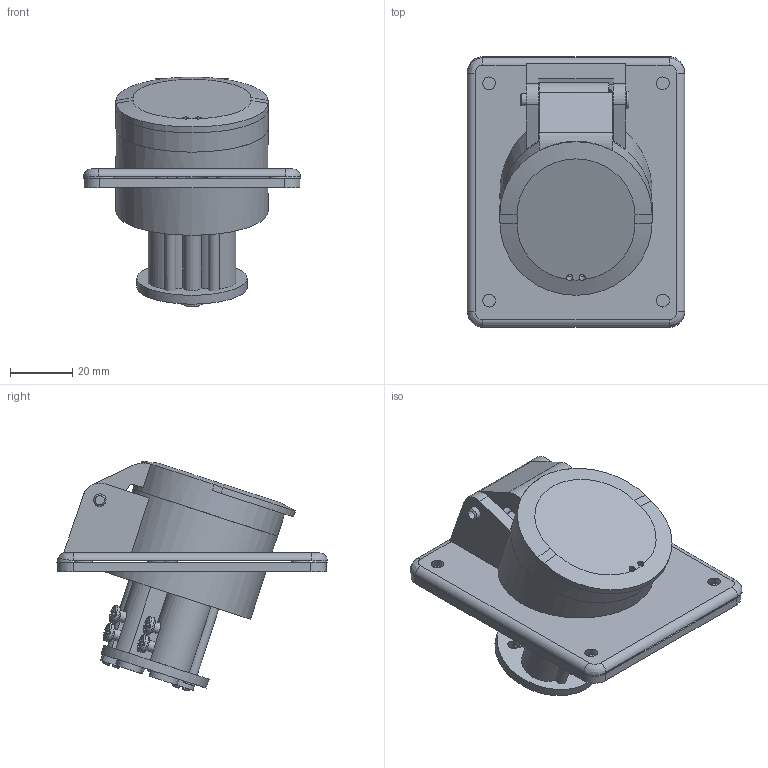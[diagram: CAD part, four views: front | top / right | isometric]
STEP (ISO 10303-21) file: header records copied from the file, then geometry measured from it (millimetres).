
FILE_DESCRIPTION(/* description */ (''),/* implementation_level */ '2;1');
FILE_NAME(/* name */ '4006080.stp',/* time_stamp */ '2016-09-26T14:40:11+02:00',/* author */ (''),/* organization */ (''),/* preprocessor_version */ 'ST-DEVELOPER v16',/* originating_system */ 'SIEMENS PLM Software NX 11.0',/* authorisation */ '');
FILE_SCHEMA (('AUTOMOTIVE_DESIGN { 1 0 10303 214 3 1 1 1 }'));
Length unit declared in the file: millimetre
Products named in the file (1): 4006080_LINKEDEXT_jt
Bounding box: 70 x 87.2 x 74.04 mm (x, y, z)
Surface area: 38224.6 mm2 (no closed solid volume)
Topology: 0 solids, 65 shells, 339 faces, 1410 edges, 1117 vertices
Faces by surface type: plane 141, cylinder 94, torus 64, cone 24, sphere 12, bspline 4
Full cylindrical faces by diameter (mm): 1 x1, 2 x2, 3 x1, 3.2 x2, 3.5 x9, 4 x3, 4.7 x3, 5.7 x1, 5.8 x6, 6 x1, 7.2 x1, 7.5 x2, 8 x2, 9.5 x2, 10 x1, 35.6 x1, 45 x1, 49 x3
Entity records: 18821 total; most frequent: CARTESIAN_POINT 5141, DIRECTION 2421, ORIENTED_EDGE 1714, EDGE_CURVE 1306, VERTEX_POINT 1088, AXIS2_PLACEMENT_3D 939, LINE 543, VECTOR 543
